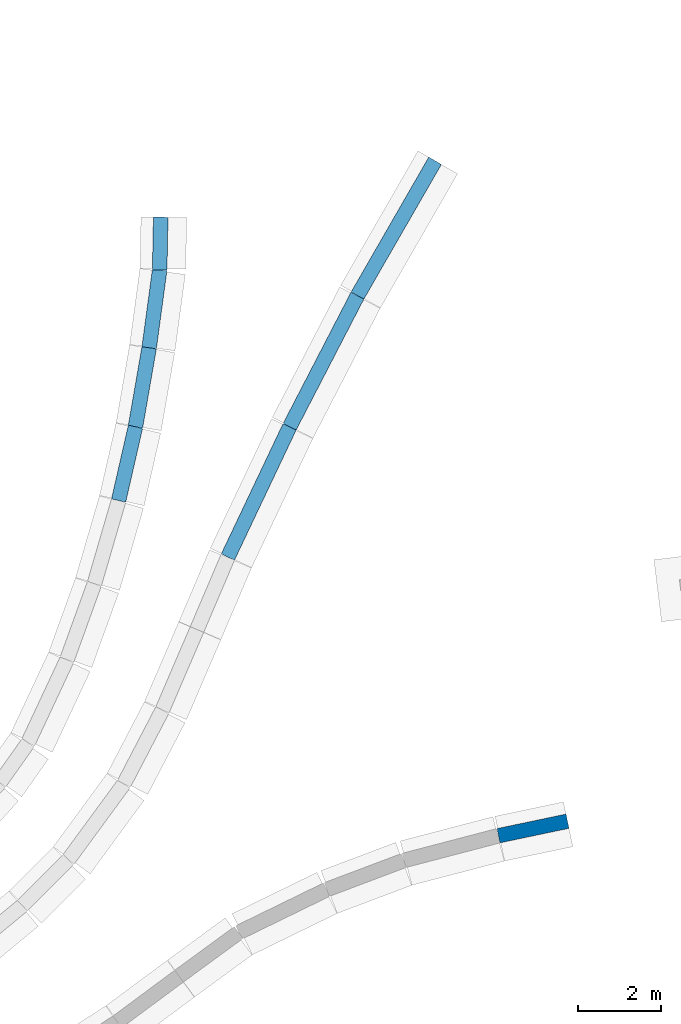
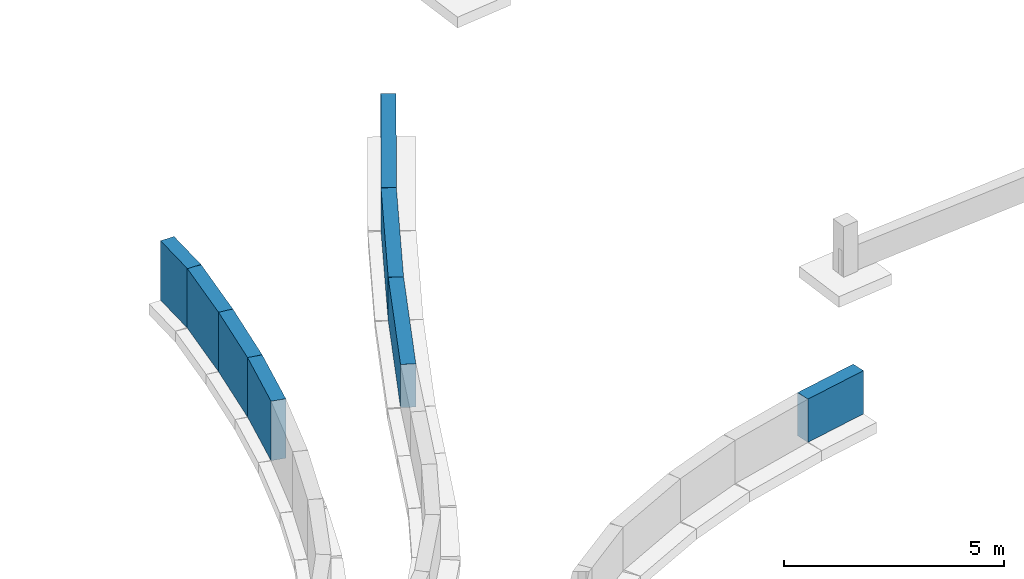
# One storey, part 6 of 6: 8 walls.
"""IFC2X3 building model written with IfcOpenShell, lengths in millimetres."""

import ifcopenshell
import ifcopenshell.guid

model = None  # the IFC model being written
_history = None  # IfcOwnerHistory: only IFC2X3 demands one
_inside = {}  # id of a spatial element -> (the spatial element, [elements in it])
_under = {}  # id of a project, library or spatial element -> (it, [spatial elements below it])
_declared = {}  # id of a project -> (the project, [libraries it declares])
_typed = {}  # id of a type object -> (the type object, [elements of that type])
_made_of = {}  # id of a material, layer set ... -> (it, [elements and type objects made of it])


def new_model(schema):
    """Start an empty IFC model of exactly this schema.

    Asked for "IFC4X3", IfcOpenShell would pick the latest addendum, in which some entities
    have other attributes; the version numbers below select the first issue.
    IFC2X3 requires an IfcOwnerHistory on every rooted entity: one is made here for all.
    """
    global model, _history
    if schema == "IFC4X3":
        model = ifcopenshell.file(schema_version=(4, 3, 0, 0))
    else:
        model = ifcopenshell.file(schema=schema)
    _inside.clear()
    _under.clear()
    _declared.clear()
    _typed.clear()
    _made_of.clear()
    _history = None
    if model.schema == "IFC2X3":
        org = make("IfcOrganization", Name="unknown")
        user = make(
            "IfcPersonAndOrganization",
            ThePerson=make("IfcPerson", FamilyName="unknown"),
            TheOrganization=org,
        )
        app = make(
            "IfcApplication",
            ApplicationDeveloper=org,
            Version="unknown",
            ApplicationFullName="unknown",
            ApplicationIdentifier="unknown",
        )
        _history = make(
            "IfcOwnerHistory",
            OwningUser=user,
            OwningApplication=app,
            ChangeAction="ADDED",
            CreationDate=0,
        )
    return model


def make(cls, **values):
    """One entity of the class cls with the attributes given. An attribute that is None is left unset."""
    return model.create_entity(
        cls, **{name: value for name, value in values.items() if value is not None}
    )


def entity(cls, *values):
    """Any entity or typed value of the class cls, its attributes in the order of the schema. None: left unset."""
    e = model.create_entity(cls)
    for i, value in enumerate(values):
        if value is not None:
            e[i] = value
    return e


def rooted(cls, **values):
    """An entity with a GlobalId (a new one), such as an element, a storey or a relation."""
    return make(cls, GlobalId=ifcopenshell.guid.new(), OwnerHistory=_history, **values)


def si_unit(unit_type, name, prefix=None):
    """IfcSIUnit, for example si_unit("LENGTHUNIT", "METRE", prefix="MILLI")."""
    return make("IfcSIUnit", UnitType=unit_type, Prefix=prefix, Name=name)


def converted_unit(unit_type, name, factor, base, dimensions=None, offset=None):
    """IfcConversionBasedUnit, such as the inch: factor (a typed value) times the base unit."""
    return make(
        "IfcConversionBasedUnit"
        if offset is None
        else "IfcConversionBasedUnitWithOffset",
        ConversionOffset=offset,
        Dimensions=None
        if dimensions is None
        else entity("IfcDimensionalExponents", *dimensions),
        UnitType=unit_type,
        Name=name,
        ConversionFactor=make(
            "IfcMeasureWithUnit", ValueComponent=factor, UnitComponent=base
        ),
    )


def assignment(units):
    """IfcUnitAssignment: the units of a project."""
    return None if units is None else make("IfcUnitAssignment", Units=units)


def point(xyz):
    """IfcCartesianPoint."""
    return None if xyz is None else make("IfcCartesianPoint", Coordinates=xyz)


def direction(xyz):
    """IfcDirection."""
    return None if xyz is None else make("IfcDirection", DirectionRatios=xyz)


def frame(location, z_axis=None, x_axis=None):
    """IfcAxis2Placement3D, a coordinate frame: its origin and axes. An axis left out is left unset."""
    return make(
        "IfcAxis2Placement3D",
        Location=point(location),
        Axis=direction(z_axis),
        RefDirection=direction(x_axis),
    )


def origin():
    """The frame at (0, 0, 0) with its axes left unset."""
    return frame((0.0, 0.0, 0.0))


def origin_with_axes():
    """The frame at (0, 0, 0) with the z axis (0, 0, 1) and the x axis (1, 0, 0) written out."""
    return frame((0.0, 0.0, 0.0), z_axis=(0.0, 0.0, 1.0), x_axis=(1.0, 0.0, 0.0))


def place(relative_to, where):
    """IfcLocalPlacement: puts the frame where relative to a parent placement (None: the world)."""
    return make(
        "IfcLocalPlacement", PlacementRelTo=relative_to, RelativePlacement=where
    )


def context(
    kind, dimensions, precision=None, world=None, true_north=None, identifier=None
):
    """IfcGeometricRepresentationContext, for example the 3D "Model" context."""
    return make(
        "IfcGeometricRepresentationContext",
        ContextIdentifier=identifier,
        ContextType=kind,
        CoordinateSpaceDimension=dimensions,
        Precision=precision,
        WorldCoordinateSystem=world,
        TrueNorth=true_north,
    )


def project(units=None, contexts=None):
    """IfcProject with its units and contexts."""
    return rooted(
        "IfcProject",
        Name="project",
        RepresentationContexts=contexts,
        UnitsInContext=assignment(units),
    )


def spatial(cls, under=None, at=None, **own):
    """A site, building, storey or space (cls), placed at a placement, below another one or the project."""
    s = rooted(cls, ObjectPlacement=at, **own)
    if under is not None:
        _under.setdefault(under.id(), (under, []))[1].append(s)
    return s


def faces_of(points, faces, orient=None, outer=None):
    """IfcFace entities. A face is a list of loops; a loop is a list of indices into points, from 0.

    orient and outer hold one flag for each loop. By default every Orientation is true, the
    first loop of a face is its IfcFaceOuterBound and the others are IfcFaceBound.
    """
    made = []
    for i, loops in enumerate(faces):
        bounds = []
        for j, loop in enumerate(loops):
            is_outer = j == 0 if outer is None else outer[i][j]
            bounds.append(
                make(
                    "IfcFaceOuterBound" if is_outer else "IfcFaceBound",
                    Bound=make("IfcPolyLoop", Polygon=[points[k] for k in loop]),
                    Orientation=True if orient is None else orient[i][j],
                )
            )
        made.append(make("IfcFace", Bounds=bounds))
    return made


def faceted_brep(points, faces, orient=None, outer=None, voids=None):
    """IfcFacetedBrep: a solid bounded by flat faces; with voids (closed shells), ...WithVoids."""
    shared = [point(p) for p in points]
    hull = make("IfcClosedShell", CfsFaces=faces_of(shared, faces, orient, outer))
    if voids is None:
        return make("IfcFacetedBrep", Outer=hull)
    return make(
        "IfcFacetedBrepWithVoids",
        Outer=hull,
        Voids=[
            make(cls, CfsFaces=faces_of(shared, fs, o, b)) for cls, fs, o, b in voids
        ],
    )


def shape(context_of_items, identifier, shape_type, items):
    """IfcShapeRepresentation: the items that make up one representation, for example the "Body"."""
    return make(
        "IfcShapeRepresentation",
        ContextOfItems=context_of_items,
        RepresentationIdentifier=identifier,
        RepresentationType=shape_type,
        Items=items,
    )


def made_of(thing, what):
    """Note that an element or type object is made of a material, layer set ...; save() writes the relation."""
    if what is not None:
        _made_of.setdefault(what.id(), (what, []))[1].append(thing)
    return thing


def element(
    cls,
    number,
    at=None,
    inside=None,
    cuts=None,
    type_object=None,
    material=None,
    context=None,
    identifier="Body",
    shape_type=None,
    held_by="IfcProductDefinitionShape",
    body=None,
    shapes=None,
    **own,
):
    """One element of the class cls, such as IfcWall. Its Tag is "e" and its number.

    at: its placement. inside: the storey or other place that contains it. cuts: it is an
    opening in that element (IfcRelVoidsElement). A single representation is given by context,
    identifier, shape_type and body (its items); several are given by shapes. held_by: the class
    of the entity that holds the representations. save() writes the other relations.
    """
    e = rooted(cls, Tag="e%d" % number, ObjectPlacement=at, **own)
    if body is not None:
        shapes = [shape(context, identifier, shape_type, body)]
    if shapes is not None:
        e.Representation = make(held_by, Representations=shapes)
    if inside is not None:
        _inside.setdefault(inside.id(), (inside, []))[1].append(e)
    if cuts is not None:
        rooted(
            "IfcRelVoidsElement", RelatingBuildingElement=cuts, RelatedOpeningElement=e
        )
    if type_object is not None:
        _typed.setdefault(type_object.id(), (type_object, []))[1].append(e)
    return made_of(e, material)


def aggregate(whole, parts):
    """IfcRelAggregates: a whole, such as a stair, and the parts it consists of."""
    return rooted("IfcRelAggregates", RelatingObject=whole, RelatedObjects=parts)


def save(model, path):
    """Write the relations noted so far, then the file.

    IfcRelAggregates (storeys below a building ...), IfcRelContainedInSpatialStructure (elements
    in a storey), IfcRelDefinesByType, IfcRelAssociatesMaterial and IfcRelDeclares: one each for
    every whole, place, type object, material and project.
    """
    for whole, parts in _under.values():
        aggregate(whole, parts)
    for where, things in _inside.values():
        rooted(
            "IfcRelContainedInSpatialStructure",
            RelatedElements=things,
            RelatingStructure=where,
        )
    for kind, things in _typed.values():
        rooted("IfcRelDefinesByType", RelatedObjects=things, RelatingType=kind)
    for what, things in _made_of.values():
        rooted("IfcRelAssociatesMaterial", RelatedObjects=things, RelatingMaterial=what)
    for by, libraries in _declared.values():
        rooted("IfcRelDeclares", RelatingContext=by, RelatedDefinitions=libraries)
    model.write(path)


model = new_model("IFC2X3")

# Units and contexts
model_context = context("Model", 3, precision=1e-05, world=origin(), true_north=direction((0.0, 1.0, 0.0)))
ifc_project = project(units=[si_unit("LENGTHUNIT", "METRE", prefix="MILLI"), si_unit("AREAUNIT", "SQUARE_METRE"), si_unit("VOLUMEUNIT", "CUBIC_METRE"), converted_unit("PLANEANGLEUNIT", "DEGREE", entity("IfcPlaneAngleMeasure", 0.01745), si_unit("PLANEANGLEUNIT", "RADIAN"), dimensions=[0, 0, 0, 0, 0, 0, 0]), si_unit("SOLIDANGLEUNIT", "STERADIAN"), si_unit("MASSUNIT", "GRAM"), si_unit("TIMEUNIT", "SECOND"), si_unit("THERMODYNAMICTEMPERATUREUNIT", "DEGREE_CELSIUS"), si_unit("LUMINOUSINTENSITYUNIT", "LUMEN")], contexts=[model_context])

# Site, building, storey
site_placement = place(None, origin_with_axes())
site = spatial("IfcSite", under=ifc_project, at=site_placement, Name="Default Site", CompositionType="ELEMENT")
building_placement = place(site_placement, origin_with_axes())
building = spatial("IfcBuilding", under=site, at=building_placement, Name="Default Building", CompositionType="ELEMENT")
storey_placement = place(building_placement, origin_with_axes())
storey = spatial("IfcBuildingStorey", under=building, at=storey_placement, Name="Fundação", CompositionType="ELEMENT", Elevation=0.0)

# Walls
wall_1_placement = place(storey_placement, origin_with_axes())
element("IfcWallStandardCase", 1, at=wall_1_placement, inside=storey, Name="IfcWallStandardCase - IfcWallStandardCase - C49 (35)", context=model_context, shape_type="Brep", body=[
    faceted_brep([(21091.41064610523, 2813.299819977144, -900.0000119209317), (22718.41062035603, 5959.299847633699, -900.0000119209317), (22718.41062035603, 5959.299847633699, -2100.000059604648), (21091.41064610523, 2813.299819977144, -2100.000059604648), (23029.29652657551, 5798.520729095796, -900.0000119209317), (23029.29652657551, 5798.520729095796, -2100.000059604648), (21402.29655232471, 2652.520701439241, -900.0000119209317), (21402.29655232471, 2652.520701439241, -2100.000059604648)], [[[0, 1, 2]], [[0, 2, 3]], [[1, 4, 5]], [[1, 5, 2]], [[4, 6, 7]], [[4, 7, 5]], [[6, 0, 3]], [[6, 3, 7]], [[2, 5, 7]], [[2, 7, 3]], [[0, 6, 4]], [[0, 4, 1]]]),
])
wall_2_placement = place(storey_placement, origin_with_axes())
element("IfcWallStandardCase", 2, at=wall_2_placement, inside=storey, Name="IfcWallStandardCase - IfcWallStandardCase - C48 (35)", context=model_context, shape_type="Brep", body=[
    faceted_brep([(22722.7219245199, 5967.19570634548, -900.0000119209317), (24584.72191307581, 9202.195720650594, -900.0000119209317), (24584.72191307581, 9202.195720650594, -2100.000059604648), (22722.7219245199, 5967.19570634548, -2100.000059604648), (24888.06306335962, 9027.598814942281, -900.0000119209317), (24888.06306335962, 9027.598814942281, -2100.000059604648), (23026.06307480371, 5792.598800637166, -900.0000119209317), (23026.06307480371, 5792.598800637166, -2100.000059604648)], [[[0, 1, 2]], [[0, 2, 3]], [[1, 4, 5]], [[1, 5, 2]], [[4, 6, 7]], [[4, 7, 5]], [[6, 0, 3]], [[6, 3, 7]], [[2, 5, 7]], [[2, 7, 3]], [[0, 6, 4]], [[0, 4, 1]]]),
])
wall_3_placement = place(storey_placement, origin_with_axes())
element("IfcWallStandardCase", 3, at=wall_3_placement, inside=storey, Name="IfcWallStandardCase - IfcWallStandardCase - C50 (35)", context=model_context, shape_type="Brep", body=[
    faceted_brep([(19606.34041864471, -318.8970393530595, -900.0000119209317), (21088.34041196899, 2807.103007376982, -900.0000119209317), (21088.34041196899, 2807.103007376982, -2100.000059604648), (19606.34041864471, -318.8970393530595, -2100.000059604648), (21404.59920007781, 2657.168357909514, -900.0000119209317), (21404.59920007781, 2657.168357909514, -2100.000059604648), (19922.59920675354, -468.8316888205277, -900.0000119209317), (19922.59920675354, -468.8316888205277, -2100.000059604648)], [[[0, 1, 2]], [[0, 2, 3]], [[1, 4, 5]], [[1, 5, 2]], [[4, 6, 7]], [[4, 7, 5]], [[6, 0, 3]], [[6, 3, 7]], [[2, 5, 7]], [[2, 7, 3]], [[0, 6, 4]], [[0, 4, 1]]]),
])
wall_4_placement = place(storey_placement, origin_with_axes())
element("IfcWallStandardCase", 4, at=wall_4_placement, inside=storey, Name="IfcWallStandardCase - IfcWallStandardCase - C24 (35)", context=model_context, shape_type="Brep", body=[
    faceted_brep([(17954.09877163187, 6500.377871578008, -1800.000032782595), (17979.09876269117, 7765.377857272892, -1800.000032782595), (17979.09876269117, 7765.377857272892, -3450.000008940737), (17954.09877163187, 6500.377871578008, -3450.000008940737), (18329.03043490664, 7758.462168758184, -1800.000032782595), (18329.03043490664, 7758.462168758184, -3450.000008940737), (18304.03044384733, 6493.462183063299, -1800.000032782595), (18304.03044384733, 6493.462183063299, -3450.000008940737)], [[[0, 1, 2]], [[0, 2, 3]], [[1, 4, 5]], [[1, 5, 2]], [[4, 6, 7]], [[4, 7, 5]], [[6, 0, 3]], [[6, 3, 7]], [[2, 5, 7]], [[2, 7, 3]], [[0, 6, 4]], [[0, 4, 1]]]),
])
wall_5_placement = place(storey_placement, origin_with_axes())
element("IfcWallStandardCase", 5, at=wall_5_placement, inside=storey, Name="IfcWallStandardCase - IfcWallStandardCase - C21 (35)", context=model_context, shape_type="Brep", body=[
    faceted_brep([(16973.07434369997, 1001.931176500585, -1800.000032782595), (17377.07435776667, 2771.931157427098, -1800.000032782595), (17377.07435776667, 2771.931157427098, -3450.000008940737), (16973.07434369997, 1001.931176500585, -3450.000008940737), (17718.29875995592, 2694.04719861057, -1800.000032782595), (17718.29875995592, 2694.04719861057, -3450.000008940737), (17314.29874588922, 924.0472176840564, -1800.000032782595), (17314.29874588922, 924.0472176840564, -3450.000008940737)], [[[0, 1, 2]], [[0, 2, 3]], [[1, 4, 5]], [[1, 5, 2]], [[4, 6, 7]], [[4, 7, 5]], [[6, 0, 3]], [[6, 3, 7]], [[2, 5, 7]], [[2, 7, 3]], [[0, 6, 4]], [[0, 4, 1]]]),
])
wall_6_placement = place(storey_placement, origin_with_axes())
element("IfcWallStandardCase", 6, at=wall_6_placement, inside=storey, Name="IfcWallStandardCase - IfcWallStandardCase - C23 (35)", context=model_context, shape_type="Brep", body=[
    faceted_brep([(17702.86350548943, 4652.226510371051, -1800.000032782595), (17955.8635152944, 6523.226502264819, -1800.000032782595), (17955.8635152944, 6523.226502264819, -3450.000008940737), (17702.86350548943, 4652.226510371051, -3450.000008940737), (18302.70688832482, 6476.325693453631, -1800.000032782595), (18302.70688832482, 6476.325693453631, -3450.000008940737), (18049.70687851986, 4605.325701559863, -1800.000032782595), (18049.70687851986, 4605.325701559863, -3450.000008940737)], [[[0, 1, 2]], [[0, 2, 3]], [[1, 4, 5]], [[1, 5, 2]], [[4, 6, 7]], [[4, 7, 5]], [[6, 0, 3]], [[6, 3, 7]], [[2, 5, 7]], [[2, 7, 3]], [[0, 6, 4]], [[0, 4, 1]]]),
])
wall_7_placement = place(storey_placement, origin_with_axes())
element("IfcWallStandardCase", 7, at=wall_7_placement, inside=storey, Name="IfcWallStandardCase - IfcWallStandardCase - C22 (35)", context=model_context, shape_type="Brep", body=[
    faceted_brep([(17374.99835580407, 2761.584749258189, -1800.000032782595), (17703.99835198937, 4659.584751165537, -1800.000032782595), (17703.99835198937, 4659.584751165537, -3450.000008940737), (17374.99835580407, 2761.584749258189, -3450.000008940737), (18048.85574668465, 4599.807014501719, -1800.000032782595), (18048.85574668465, 4599.807014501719, -3450.000008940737), (17719.85575049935, 2701.80701259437, -1800.000032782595), (17719.85575049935, 2701.80701259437, -3450.000008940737)], [[[0, 1, 2]], [[0, 2, 3]], [[1, 4, 5]], [[1, 5, 2]], [[4, 6, 7]], [[4, 7, 5]], [[6, 0, 3]], [[6, 3, 7]], [[2, 5, 7]], [[2, 7, 3]], [[0, 6, 4]], [[0, 4, 1]]]),
])
wall_8_placement = place(storey_placement, origin_with_axes())
element("IfcWallStandardCase", 8, at=wall_8_placement, inside=storey, Name="IfcWallStandardCase - IfcWallStandardCase - C97 (35)", context=model_context, shape_type="Brep", body=[
    faceted_brep([(26221.9290816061, -6906.84899028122, -1.192093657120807e-05), (27877.92909972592, -6558.848990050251, -1.192093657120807e-05), (27877.92909972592, -6558.848990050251, -1200.000059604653), (26221.9290816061, -6906.84899028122, -1200.000059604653), (27949.90766875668, -6901.367726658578, -1.192093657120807e-05), (27949.90766875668, -6901.367726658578, -1200.000059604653), (26293.90765063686, -7249.367726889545, -1.192093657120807e-05), (26293.90765063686, -7249.367726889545, -1200.000059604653)], [[[0, 1, 2]], [[0, 2, 3]], [[1, 4, 5]], [[1, 5, 2]], [[4, 6, 7]], [[4, 7, 5]], [[6, 0, 3]], [[6, 3, 7]], [[2, 5, 7]], [[2, 7, 3]], [[0, 6, 4]], [[0, 4, 1]]]),
])

save(model, "model.ifc")
